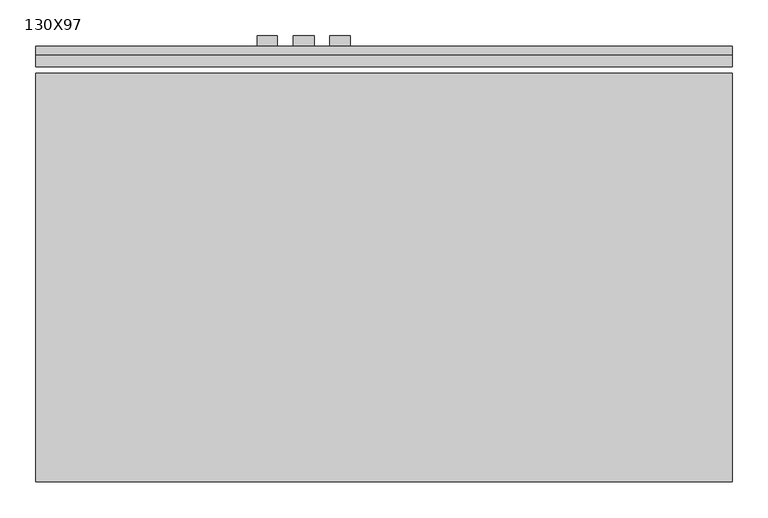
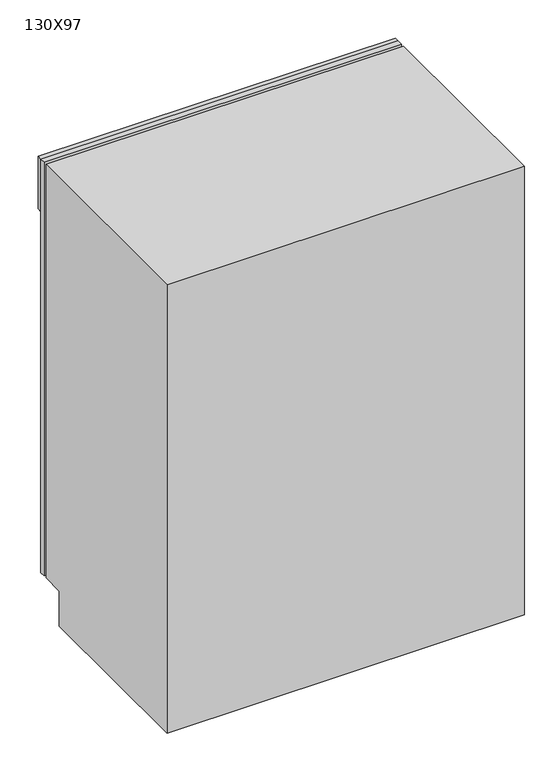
"""IFC4 building model written with IfcOpenShell, lengths in millimetres: proxy geometry, _Produtos_Arq_Bib_M_Trash Compactor : 130X97."""

from ifc_helpers import new_model, si_unit, frame, origin, place, context, project, spatial, polyline, outline, extrude, source, transform, mapped, element, save


def proxy_130x97_91d28383(model_context):
    return source(origin(), model_context, "Body", "SweptSolid", [
        extrude(outline(polyline([(1057.5174685, 38.3504352), (1057.5174685, 22.4754352), (77.5174685, 22.4754352), (77.5174685, 38.3504352), (1057.5174685, 38.3504352)])), frame((0.0, 0.0, 101.6), z_axis=(0.0, 0.0, 1.0), x_axis=(1.0, 0.0, 0.0)), (0.0, 0.0, 1.0), 1198.4),
        extrude(outline(polyline([(1057.5174685, 38.3504352), (77.5174685, 38.3504352), (77.5174685, 51.0504352), (1057.5174685, 51.0504352), (1057.5174685, 38.3504352)])), frame((0.0, 0.0, 1147.6), z_axis=(0.0, 0.0, 1.0), x_axis=(1.0, 0.0, 0.0)), (0.0, 0.0, 1.0), 152.4),
        extrude(outline(polyline([(-561.6495648, 0.0), (-561.6495648, 1300.0), (12.9504352, 1300.0), (12.9504352, 101.6), (-50.5495648, 101.6), (-50.5495648, 0.0), (-561.6495648, 0.0)])), frame((77.5174685, 0.0, 0.0), z_axis=(1.0, 0.0, 0.0), x_axis=(0.0, 1.0, 0.0)), (0.0, 0.0, 1.0), 980.0),
        extrude(outline(polyline([(417.683818, 66.0504352), (417.683818, 51.0504352), (389.108818, 51.0504352), (389.108818, 66.0504352), (417.683818, 66.0504352)])), frame((0.0, 0.0, 1241.056589), z_axis=(0.0, 0.0, 1.0), x_axis=(1.0, 0.0, 0.0)), (0.0, 0.0, 1.0), 25.4),
        extrude(outline(polyline([(469.324203, 66.0504352), (469.324203, 51.0504352), (439.739816, 51.0504352), (439.739816, 66.0504352), (469.324203, 66.0504352)])), frame((0.0, 0.0, 1241.056589), z_axis=(0.0, 0.0, 1.0), x_axis=(1.0, 0.0, 0.0)), (0.0, 0.0, 1.0), 25.4),
        extrude(outline(polyline([(519.7566481, 66.0504352), (519.7566481, 51.0504352), (491.3635786, 51.0504352), (491.3635786, 66.0504352), (519.7566481, 66.0504352)])), frame((0.0, 0.0, 1241.056589), z_axis=(0.0, 0.0, 1.0), x_axis=(1.0, 0.0, 0.0)), (0.0, 0.0, 1.0), 25.4),
    ])


if __name__ == "__main__":
    model = new_model("IFC4")
    model_context = context("Model", 3, world=origin())
    ifc_project = project(units=[si_unit("LENGTHUNIT", "METRE", prefix="MILLI")], contexts=[model_context])
    site = spatial("IfcSite", under=ifc_project)
    building = spatial("IfcBuilding", under=site)
    placement = place(None, origin())
    proxy_130x97_shape = proxy_130x97_91d28383(model_context)
    element("IfcBuildingElementProxy", 1, Name="_Produtos_Arq_Bib_M_Trash Compactor : 130X97", ObjectType="_Produtos_Arq_Bib_M_Trash Compactor : 130X97", at=placement, inside=building, context=model_context, shape_type="MappedRepresentation", body=[
        mapped(proxy_130x97_shape, transform((0.0, 0.0, 0.0), x_axis=(1.0, 0.0, 0.0), y_axis=(0.0, 1.0, 0.0), z_axis=(0.0, 0.0, 1.0))),
    ])
    save(model, "model.ifc")
